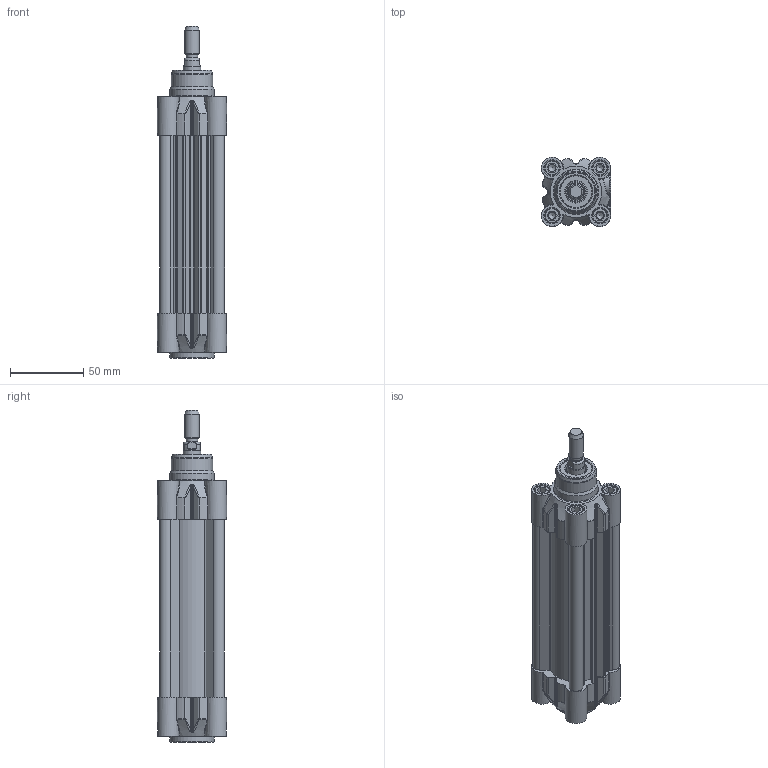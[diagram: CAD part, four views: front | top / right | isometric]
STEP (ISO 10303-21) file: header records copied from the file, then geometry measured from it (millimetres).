
FILE_DESCRIPTION(/* description */ ('CILINDRO D.E. MAGNETICO AMMORTIZZATO ISO 15552'),/* implementation_level */ '2;1');
FILE_NAME(/* name */ 'T:\Archivio Inventor\- 00 NUOVI STP PER SITO CON STELO CHE SI MUOVE\SERIE H - U\SERIE HDM\HDM032-TUBO NUOVO\HDM032.080.GS.M.stp',/* time_stamp */ '2018-07-25T10:29:56+02:00',/* author */ ('carlo.corazza'),/* organization */ (''),/* preprocessor_version */ 'ST-DEVELOPER v16.5',/* originating_system */ 'Autodesk Inventor 2017',/* authorisation */ '');
FILE_SCHEMA (('AUTOMOTIVE_DESIGN { 1 0 10303 214 3 1 1 }'));
Length unit declared in the file: millimetre
Products named in the file (5): HDM032.080.GS.M; TP; STELO-080; TA; CORPO-080
Assembly tree (4 placements, depth 2):
  HDM032.080.GS.M
    TP
    STELO-080
    TA
    CORPO-080
Bounding box: 47 x 47 x 226 mm (x, y, z)
Volume: 174038.4 mm3; surface area: 107462.3 mm2
Topology: 4 solids, 18 shells, 969 faces, 2356 edges, 1494 vertices
Faces by surface type: plane 330, cylinder 260, bspline 190, cone 86, torus 83, sphere 20
Full cylindrical faces by diameter (mm): 2 x2, 2.1 x2, 4 x2, 4.5 x2, 4.917 x8, 6 x8, 6.2 x8, 6.3 x4, 7 x2, 7.8 x4, 7.9 x3, 8 x4, 8.566 x2, 10 x9, 10.3 x8, 11.6 x1, 12 x1, 12.8 x1, 12.847 x1, 16 x1, 17 x2, 22 x3, 28 x1, 30 x2, 32 x1
Entity records: 31186 total; most frequent: CARTESIAN_POINT 9171, ORIENTED_EDGE 4162, DIRECTION 4048, EDGE_CURVE 2081, AXIS2_PLACEMENT_3D 1569, VERTEX_POINT 1436, EDGE_LOOP 1302, FACE_OUTER_BOUND 969
